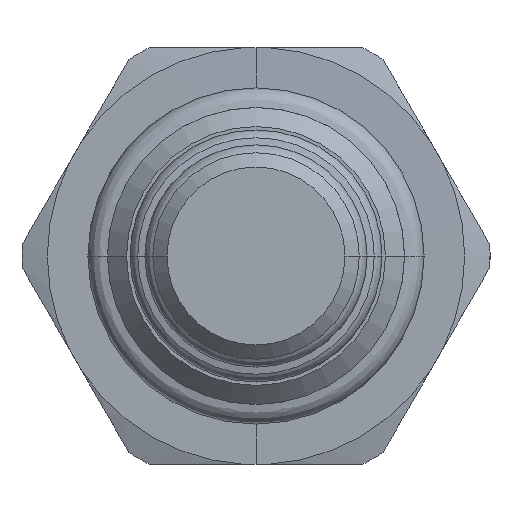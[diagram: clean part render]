
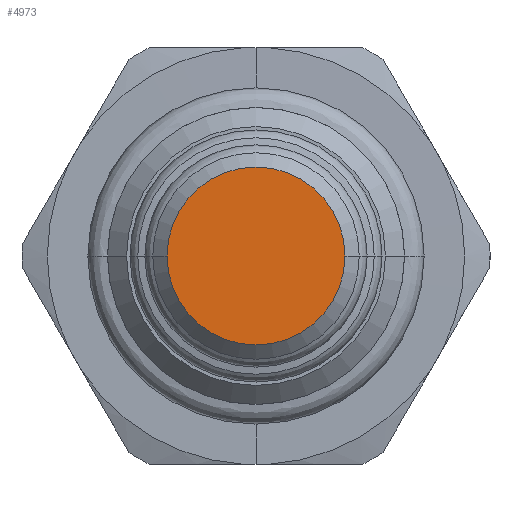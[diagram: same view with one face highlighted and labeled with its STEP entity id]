
A CAD part, front view. The second image highlights one B-rep face of the part: STEP entity #4973.
In plain terms, the highlighted planar face has unit normal (0, -1, 0).
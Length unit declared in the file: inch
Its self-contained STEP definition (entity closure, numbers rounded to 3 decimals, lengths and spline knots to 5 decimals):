
#1891=CARTESIAN_POINT('',(0.,-1.4141,0.));
#1892=DIRECTION('',(0.,-1.,0.));
#1893=DIRECTION('',(-1.,0.,0.));
#1894=AXIS2_PLACEMENT_3D('',#1891,#1892,#1893);
#1909=CARTESIAN_POINT('',(0.,-1.4141,0.));
#1910=DIRECTION('',(0.,-1.,0.));
#1911=DIRECTION('',(1.,0.,0.));
#1912=AXIS2_PLACEMENT_3D('',#1909,#1910,#1911);
#2201=CARTESIAN_POINT('',(0.1865,-1.4141,0.));
#2202=CARTESIAN_POINT('',(-0.1865,-1.4141,0.));
#2203=VERTEX_POINT('',#2201);
#2204=VERTEX_POINT('',#2202);
#4963=CARTESIAN_POINT('',(0.,-1.4141,0.));
#4964=DIRECTION('',(0.,1.,0.));
#4965=DIRECTION('',(1.,0.,0.));
#4966=AXIS2_PLACEMENT_3D('',#4963,#4964,#4965);
#4967=PLANE('',#4966);
#4968=ORIENTED_EDGE('',*,*,#4953,.F.);
#4970=ORIENTED_EDGE('',*,*,#4969,.F.);
#4971=EDGE_LOOP('',(#4968,#4970));
#4972=FACE_OUTER_BOUND('',#4971,.F.);
#4973=ADVANCED_FACE('',(#4972),#4967,.F.);
#1895=CIRCLE('',#1894,0.1865);
#1913=CIRCLE('',#1912,0.1865);
#4953=EDGE_CURVE('',#2204,#2203,#1895,.T.);
#4969=EDGE_CURVE('',#2203,#2204,#1913,.T.);
